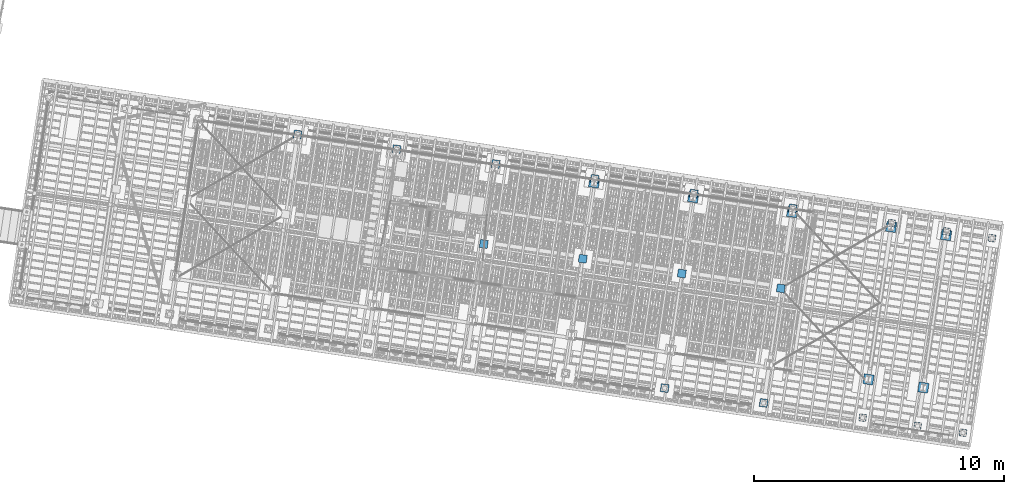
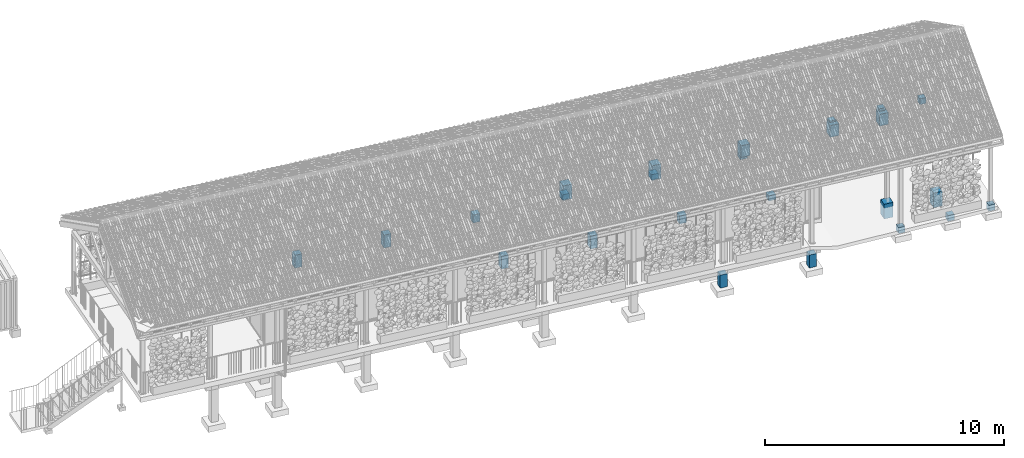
# One storey, part 6 of 131: 25 columns, 2 elements without a shape of their own.
"""IFC4 building model written with IfcOpenShell, lengths in metres."""

from ifc_helpers import new_model, si_unit, direction, frame, origin_with_axes, place, context, subcontext, project, spatial, polyline, outline, extrude, material, element, aggregate, save


model = new_model("IFC4")

# Units and contexts
model_context = context("Model", 3, precision=1e-05, world=origin_with_axes(), true_north=direction((0.0, 1.0)))
body_context = subcontext(model_context, "Body", "Model", "MODEL_VIEW")
ifc_project = project(units=[si_unit("AREAUNIT", "SQUARE_METRE"), si_unit("VOLUMEUNIT", "CUBIC_METRE"), si_unit("LENGTHUNIT", "METRE")], contexts=[model_context])

# Site, building, storey
site_placement = place(None, origin_with_axes())
site = spatial("IfcSite", under=ifc_project, at=site_placement, Name="Lares · Rua das Mercês · artigo 4771")
building_placement = place(site_placement, frame((15.0, 9.7, 14.65), z_axis=(0.0, 0.0, 1.0), x_axis=(0.989015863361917, -0.147809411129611, 0.0)))
building = spatial("IfcBuilding", under=site, at=building_placement, Name="Casa Sobreposta")
storey_placement = place(building_placement, origin_with_axes())
storey = spatial("IfcBuildingStorey", under=building, at=storey_placement, Name="00 · Habitação e estacionamento", Elevation=14.65)

# Columns
ifc_material = material(Name="Betão armado / Stahlbeton", Category="concrete")
column_1_placement = place(storey_placement, frame((0.0, 0.0, -0.75), z_axis=(0.0, 0.0, 1.0), x_axis=(1.0, 0.0, 0.0)))
element("IfcColumn", 1, at=column_1_placement, inside=storey, material=ifc_material, Name="Casa térrea · pedestal", context=body_context, shape_type="SweptSolid", body=[
    extrude(outline(polyline([(16.2, 6.08), (16.2, 6.48), (15.8, 6.48), (15.8, 6.08), (16.2, 6.08)])), origin_with_axes(), (0.0, 0.0, 1.0), 0.75),
])
column_2_placement = place(storey_placement, frame((0.0, 0.0, -0.75), z_axis=(0.0, 0.0, 1.0), x_axis=(1.0, 0.0, 0.0)))
element("IfcColumn", 2, at=column_2_placement, inside=storey, material=ifc_material, Name="Casa térrea · pedestal", context=body_context, shape_type="SweptSolid", body=[
    extrude(outline(polyline([(20.2, 6.08), (20.2, 6.48), (19.8, 6.48), (19.8, 6.08), (20.2, 6.08)])), origin_with_axes(), (0.0, 0.0, 1.0), 0.75),
])
column_3_placement = place(storey_placement, frame((0.0, 0.0, -0.6), z_axis=(0.0, 0.0, 1.0), x_axis=(1.0, 0.0, 0.0)))
element("IfcColumn", 3, at=column_3_placement, inside=storey, material=ifc_material, Name="Casa térrea · pedestal", context=body_context, shape_type="SweptSolid", body=[
    extrude(outline(polyline([(24.2, 6.08), (24.2, 6.48), (23.8, 6.48), (23.8, 6.08), (24.2, 6.08)])), origin_with_axes(), (0.0, 0.0, 1.0), 0.6),
])
column_4_placement = place(storey_placement, frame((0.0, 0.0, -0.75), z_axis=(0.0, 0.0, 1.0), x_axis=(1.0, 0.0, 0.0)))
element("IfcColumn", 4, at=column_4_placement, inside=storey, material=ifc_material, Name="Casa térrea · pedestal", context=body_context, shape_type="SweptSolid", body=[
    extrude(outline(polyline([(28.2, -0.08), (28.2, 0.32), (27.8, 0.32), (27.8, -0.08), (28.2, -0.08)])), origin_with_axes(), (0.0, 0.0, 1.0), 0.75),
])
column_5_placement = place(storey_placement, frame((0.0, 0.0, -0.6), z_axis=(0.0, 0.0, 1.0), x_axis=(1.0, 0.0, 0.0)))
element("IfcColumn", 5, at=column_5_placement, inside=storey, material=ifc_material, Name="Casa térrea · pedestal", context=body_context, shape_type="SweptSolid", body=[
    extrude(outline(polyline([(28.2, 6.08), (28.2, 6.48), (27.8, 6.48), (27.8, 6.08), (28.2, 6.08)])), origin_with_axes(), (0.0, 0.0, 1.0), 0.6),
])
column_6_placement = place(storey_placement, frame((0.0, 0.0, -0.75), z_axis=(0.0, 0.0, 1.0), x_axis=(1.0, 0.0, 0.0)))
element("IfcColumn", 6, at=column_6_placement, inside=storey, material=ifc_material, Name="Casa térrea · pedestal", context=body_context, shape_type="SweptSolid", body=[
    extrude(outline(polyline([(30.42, -0.08), (30.42, 0.32), (30.02, 0.32), (30.02, -0.08), (30.42, -0.08)])), origin_with_axes(), (0.0, 0.0, 1.0), 0.75),
])
column_7_placement = place(storey_placement, frame((0.0, 0.0, -0.6), z_axis=(0.0, 0.0, 1.0), x_axis=(1.0, 0.0, 0.0)))
element("IfcColumn", 7, at=column_7_placement, inside=storey, material=ifc_material, Name="Casa térrea · pedestal", context=body_context, shape_type="SweptSolid", body=[
    extrude(outline(polyline([(30.42, 6.08), (30.42, 6.48), (30.02, 6.48), (30.02, 6.08), (30.42, 6.08)])), origin_with_axes(), (0.0, 0.0, 1.0), 0.6),
])

# Assembly, columns
assembly_1_placement = place(storey_placement, origin_with_axes())
assembly_1 = element("IfcElementAssembly", 8, at=assembly_1_placement, inside=storey, Name="Pódio · terraço, casa térrea e cisterna", ObjectType="CISTERN_PODIUM", PredefinedType="USERDEFINED")
column_8_placement = place(assembly_1_placement, frame((0.0, 0.0, -1.25), z_axis=(0.0, 0.0, 1.0), x_axis=(1.0, 0.0, 0.0)))
column_8 = element("IfcColumn", 9, at=column_8_placement, material=ifc_material, Name="Pódio suspenso · apoio sobre o terreno", context=body_context, shape_type="SweptSolid", body=[
    extrude(outline(polyline([(4.16, 6.27), (4.16, 6.59), (3.84, 6.59), (3.84, 6.27), (4.16, 6.27)])), origin_with_axes(), (0.0, 0.0, 1.0), 0.66),
])
column_9_placement = place(assembly_1_placement, frame((0.0, 0.0, -1.25), z_axis=(0.0, 0.0, 1.0), x_axis=(1.0, 0.0, 0.0)))
column_9 = element("IfcColumn", 10, at=column_9_placement, material=ifc_material, Name="Pódio suspenso · apoio sobre o terreno", context=body_context, shape_type="SweptSolid", body=[
    extrude(outline(polyline([(8.16, 6.27), (8.16, 6.59), (7.84, 6.59), (7.84, 6.27), (8.16, 6.27)])), origin_with_axes(), (0.0, 0.0, 1.0), 0.66),
])
column_10_placement = place(assembly_1_placement, frame((0.0, 0.0, -1.25), z_axis=(0.0, 0.0, 1.0), x_axis=(1.0, 0.0, 0.0)))
column_10 = element("IfcColumn", 11, at=column_10_placement, material=ifc_material, Name="Pódio suspenso · apoio sobre o terreno", context=body_context, shape_type="SweptSolid", body=[
    extrude(outline(polyline([(12.16, 3.04), (12.16, 3.36), (11.84, 3.36), (11.84, 3.04), (12.16, 3.04)])), origin_with_axes(), (0.0, 0.0, 1.0), 0.66),
])
column_11_placement = place(assembly_1_placement, frame((0.0, 0.0, -1.0), z_axis=(0.0, 0.0, 1.0), x_axis=(1.0, 0.0, 0.0)))
column_11 = element("IfcColumn", 12, at=column_11_placement, material=ifc_material, Name="Pódio suspenso · apoio sobre o terreno", context=body_context, shape_type="SweptSolid", body=[
    extrude(outline(polyline([(12.16, 6.27), (12.16, 6.59), (11.84, 6.59), (11.84, 6.27), (12.16, 6.27)])), origin_with_axes(), (0.0, 0.0, 1.0), 0.41),
])
column_12_placement = place(assembly_1_placement, frame((0.0, 0.0, -1.25), z_axis=(0.0, 0.0, 1.0), x_axis=(1.0, 0.0, 0.0)))
column_12 = element("IfcColumn", 13, at=column_12_placement, material=ifc_material, Name="Pódio suspenso · apoio sobre o terreno", context=body_context, shape_type="SweptSolid", body=[
    extrude(outline(polyline([(16.16, 3.04), (16.16, 3.36), (15.84, 3.36), (15.84, 3.04), (16.16, 3.04)])), origin_with_axes(), (0.0, 0.0, 1.0), 0.66),
])
column_13_placement = place(assembly_1_placement, frame((0.0, 0.0, -0.85), z_axis=(0.0, 0.0, 1.0), x_axis=(1.0, 0.0, 0.0)))
column_13 = element("IfcColumn", 14, at=column_13_placement, material=ifc_material, Name="Pódio suspenso · apoio sobre o terreno", context=body_context, shape_type="SweptSolid", body=[
    extrude(outline(polyline([(16.16, 6.27), (16.16, 6.59), (15.84, 6.59), (15.84, 6.27), (16.16, 6.27)])), origin_with_axes(), (0.0, 0.0, 1.0), 0.26),
])
column_14_placement = place(assembly_1_placement, frame((0.0, 0.0, -1.25), z_axis=(0.0, 0.0, 1.0), x_axis=(1.0, 0.0, 0.0)))
column_14 = element("IfcColumn", 15, at=column_14_placement, material=ifc_material, Name="Pódio suspenso · apoio sobre o terreno", context=body_context, shape_type="SweptSolid", body=[
    extrude(outline(polyline([(20.16, -1.59), (20.16, -1.27), (19.84, -1.27), (19.84, -1.59), (20.16, -1.59)])), origin_with_axes(), (0.0, 0.0, 1.0), 0.66),
])
column_15_placement = place(assembly_1_placement, frame((0.0, 0.0, -1.0), z_axis=(0.0, 0.0, 1.0), x_axis=(1.0, 0.0, 0.0)))
column_15 = element("IfcColumn", 16, at=column_15_placement, material=ifc_material, Name="Pódio suspenso · apoio sobre o terreno", context=body_context, shape_type="SweptSolid", body=[
    extrude(outline(polyline([(20.16, 3.04), (20.16, 3.36), (19.84, 3.36), (19.84, 3.04), (20.16, 3.04)])), origin_with_axes(), (0.0, 0.0, 1.0), 0.41),
])
column_16_placement = place(assembly_1_placement, frame((0.0, 0.0, -0.85), z_axis=(0.0, 0.0, 1.0), x_axis=(1.0, 0.0, 0.0)))
column_16 = element("IfcColumn", 17, at=column_16_placement, material=ifc_material, Name="Pódio suspenso · apoio sobre o terreno", context=body_context, shape_type="SweptSolid", body=[
    extrude(outline(polyline([(20.16, 6.27), (20.16, 6.59), (19.84, 6.59), (19.84, 6.27), (20.16, 6.27)])), origin_with_axes(), (0.0, 0.0, 1.0), 0.26),
])
column_17_placement = place(assembly_1_placement, frame((0.0, 0.0, -1.25), z_axis=(0.0, 0.0, 1.0), x_axis=(1.0, 0.0, 0.0)))
column_17 = element("IfcColumn", 18, at=column_17_placement, material=ifc_material, Name="Pódio suspenso · apoio sobre o terreno", context=body_context, shape_type="SweptSolid", body=[
    extrude(outline(polyline([(24.16, -1.59), (24.16, -1.27), (23.84, -1.27), (23.84, -1.59), (24.16, -1.59)])), origin_with_axes(), (0.0, 0.0, 1.0), 0.66),
])
column_18_placement = place(assembly_1_placement, frame((0.0, 0.0, -0.85), z_axis=(0.0, 0.0, 1.0), x_axis=(1.0, 0.0, 0.0)))
column_18 = element("IfcColumn", 19, at=column_18_placement, material=ifc_material, Name="Pódio suspenso · apoio sobre o terreno", context=body_context, shape_type="SweptSolid", body=[
    extrude(outline(polyline([(24.16, 3.04), (24.16, 3.36), (23.84, 3.36), (23.84, 3.04), (24.16, 3.04)])), origin_with_axes(), (0.0, 0.0, 1.0), 0.26),
])
column_19_placement = place(assembly_1_placement, frame((0.0, 0.0, -0.85), z_axis=(0.0, 0.0, 1.0), x_axis=(1.0, 0.0, 0.0)))
column_19 = element("IfcColumn", 20, at=column_19_placement, material=ifc_material, Name="Pódio suspenso · apoio sobre o terreno", context=body_context, shape_type="SweptSolid", body=[
    extrude(outline(polyline([(24.16, 6.27), (24.16, 6.59), (23.84, 6.59), (23.84, 6.27), (24.16, 6.27)])), origin_with_axes(), (0.0, 0.0, 1.0), 0.26),
])
aggregate(assembly_1, [column_8, column_9, column_10, column_11, column_12, column_13, column_14, column_15, column_16, column_17, column_18, column_19])

assembly_2_placement = place(storey_placement, origin_with_axes())
assembly_2 = element("IfcElementAssembly", 21, at=assembly_2_placement, inside=storey, Name="Varanda coberta · continuação integral da cobertura", ObjectType="COVERED_PODIUM_BALCONY", PredefinedType="USERDEFINED")
column_20_placement = place(assembly_2_placement, frame((0.0, 0.0, -0.54005), z_axis=(0.0, 0.0, 1.0), x_axis=(1.0, 0.0, 0.0)))
column_20 = element("IfcColumn", 22, at=column_20_placement, material=ifc_material, Name="Varanda coberta · pedestal enterrado", context=body_context, shape_type="SweptSolid", body=[
    extrude(outline(polyline([(28.14, -1.57), (28.14, -1.29), (27.86, -1.29), (27.86, -1.57), (28.14, -1.57)])), origin_with_axes(), (0.0, 0.0, 1.0), 0.3),
])
column_21_placement = place(assembly_2_placement, frame((0.0, 0.0, -0.225649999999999), z_axis=(0.0, 0.0, 1.0), x_axis=(1.0, 0.0, 0.0)))
column_21 = element("IfcColumn", 23, at=column_21_placement, material=ifc_material, Name="Varanda coberta · pedestal enterrado", context=body_context, shape_type="SweptSolid", body=[
    extrude(outline(polyline([(28.14, 6.29), (28.14, 6.57), (27.86, 6.57), (27.86, 6.29), (28.14, 6.29)])), origin_with_axes(), (0.0, 0.0, 1.0), 0.3),
])
column_22_placement = place(assembly_2_placement, frame((0.0, 0.0, -0.48455), z_axis=(0.0, 0.0, 1.0), x_axis=(1.0, 0.0, 0.0)))
column_22 = element("IfcColumn", 24, at=column_22_placement, material=ifc_material, Name="Varanda coberta · pedestal enterrado", context=body_context, shape_type="SweptSolid", body=[
    extrude(outline(polyline([(30.36, -1.57), (30.36, -1.29), (30.08, -1.29), (30.08, -1.57), (30.36, -1.57)])), origin_with_axes(), (0.0, 0.0, 1.0), 0.3),
])
column_23_placement = place(assembly_2_placement, frame((0.0, 0.0, -0.170149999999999), z_axis=(0.0, 0.0, 1.0), x_axis=(1.0, 0.0, 0.0)))
column_23 = element("IfcColumn", 25, at=column_23_placement, material=ifc_material, Name="Varanda coberta · pedestal enterrado", context=body_context, shape_type="SweptSolid", body=[
    extrude(outline(polyline([(30.36, 6.29), (30.36, 6.57), (30.08, 6.57), (30.08, 6.29), (30.36, 6.29)])), origin_with_axes(), (0.0, 0.0, 1.0), 0.3),
])
column_24_placement = place(assembly_2_placement, frame((0.0, 0.0, -0.4388), z_axis=(0.0, 0.0, 1.0), x_axis=(1.0, 0.0, 0.0)))
column_24 = element("IfcColumn", 26, at=column_24_placement, material=ifc_material, Name="Varanda coberta · pedestal enterrado", context=body_context, shape_type="SweptSolid", body=[
    extrude(outline(polyline([(32.19, -1.57), (32.19, -1.29), (31.91, -1.29), (31.91, -1.57), (32.19, -1.57)])), origin_with_axes(), (0.0, 0.0, 1.0), 0.3),
])
column_25_placement = place(assembly_2_placement, frame((0.0, 0.0, -0.124399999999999), z_axis=(0.0, 0.0, 1.0), x_axis=(1.0, 0.0, 0.0)))
column_25 = element("IfcColumn", 27, at=column_25_placement, material=ifc_material, Name="Varanda coberta · pedestal enterrado", context=body_context, shape_type="SweptSolid", body=[
    extrude(outline(polyline([(32.19, 6.29), (32.19, 6.57), (31.91, 6.57), (31.91, 6.29), (32.19, 6.29)])), origin_with_axes(), (0.0, 0.0, 1.0), 0.3),
])
aggregate(assembly_2, [column_20, column_21, column_22, column_23, column_24, column_25])

save(model, "model.ifc")
